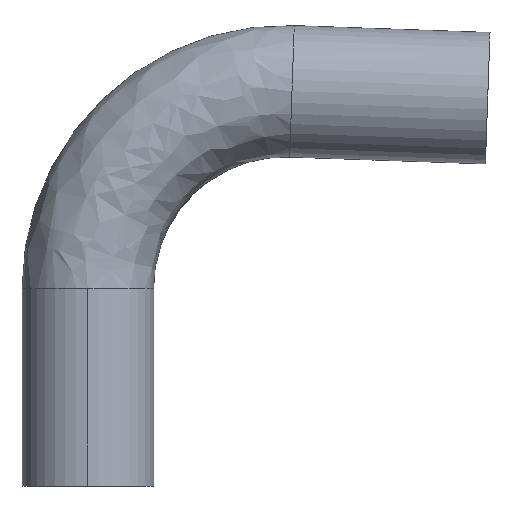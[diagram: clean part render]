
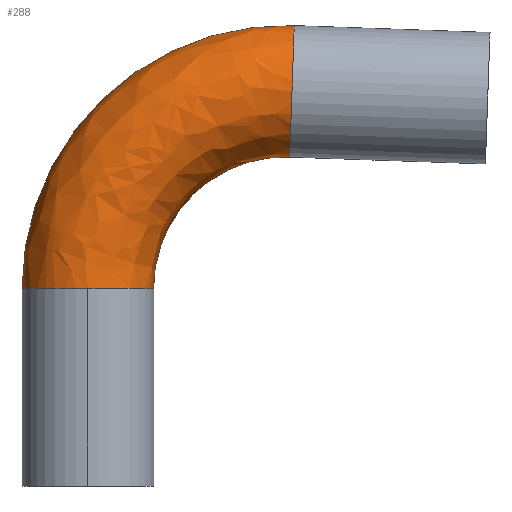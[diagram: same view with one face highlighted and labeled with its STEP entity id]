
A CAD part, top view. The second image highlights one B-rep face of the part: STEP entity #288.
In plain terms, the highlighted free-form (B-spline) face has degree [3, 3] with [4, 4] control points.
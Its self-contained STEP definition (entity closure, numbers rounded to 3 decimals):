
#8 = CARTESIAN_POINT ( 'NONE',  ( 39.873, 88.942, 0. ) ) ;
#14 =( BOUNDED_SURFACE ( )  B_SPLINE_SURFACE ( 3, 3, ( 
 ( #228, #285, #328, #8 ),
 ( #205, #408, #487, #479 ),
 ( #483, #348, #158, #442 ),
 ( #315, #133, #194, #187 ) ),
 .UNSPECIFIED., .F., .F., .F. ) 
 B_SPLINE_SURFACE_WITH_KNOTS ( ( 4, 4 ),
 ( 4, 4 ),
 ( 0., 1. ),
 ( 0., 1. ),
 .UNSPECIFIED. ) 
 GEOMETRIC_REPRESENTATION_ITEM ( )  RATIONAL_B_SPLINE_SURFACE ( (
 ( 1., 0.796, 0.796, 1.),
 ( 0.333, 0.265, 0.265, 0.333),
 ( 0.333, 0.265, 0.265, 0.333),
 ( 1., 0.796, 0.796, 1.) ) ) 
 REPRESENTATION_ITEM ( '' )  SURFACE ( )  );
#29 = ORIENTED_EDGE ( 'NONE', *, *, #409, .T. ) ;
#38 = CIRCLE ( 'NONE', #55, 12.7 ) ;
#55 = AXIS2_PLACEMENT_3D ( 'NONE', #401, #144, #363 ) ;
#57 = CARTESIAN_POINT ( 'NONE',  ( 39.43, 76.25, 0. ) ) ;
#61 = CIRCLE ( 'NONE', #217, 50.8 ) ;
#72 = CARTESIAN_POINT ( 'NONE',  ( 38.986, 63.557, 0. ) ) ;
#98 = CIRCLE ( 'NONE', #197, 25.4 ) ;
#117 = EDGE_CURVE ( 'NONE', #410, #494, #126, .T. ) ;
#118 = VERTEX_POINT ( 'NONE', #334 ) ;
#126 = CIRCLE ( 'NONE', #146, 12.7 ) ;
#133 = CARTESIAN_POINT ( 'NONE',  ( 12.7, 53.467, 0. ) ) ;
#144 = DIRECTION ( 'NONE',  ( 0., 1., 0. ) ) ;
#146 = AXIS2_PLACEMENT_3D ( 'NONE', #57, #343, #449 ) ;
#154 = CARTESIAN_POINT ( 'NONE',  ( 0., 38.173, 12.7 ) ) ;
#158 = CARTESIAN_POINT ( 'NONE',  ( 23.702, 64.091, 25.4 ) ) ;
#160 = ORIENTED_EDGE ( 'NONE', *, *, #202, .T. ) ;
#178 = FACE_OUTER_BOUND ( 'NONE', #243, .T. ) ;
#181 = CARTESIAN_POINT ( 'NONE',  ( 38.1, 38.173, 0. ) ) ;
#187 = CARTESIAN_POINT ( 'NONE',  ( 38.986, 63.557, 0. ) ) ;
#194 = CARTESIAN_POINT ( 'NONE',  ( 23.702, 64.091, 0. ) ) ;
#197 = AXIS2_PLACEMENT_3D ( 'NONE', #358, #467, #498 ) ;
#200 = DIRECTION ( 'NONE',  ( 0., 0., -1. ) ) ;
#202 = EDGE_CURVE ( 'NONE', #268, #118, #38, .T. ) ;
#205 = CARTESIAN_POINT ( 'NONE',  ( -12.7, 38.173, 25.4 ) ) ;
#209 = DIRECTION ( 'NONE',  ( -1., 0., 0. ) ) ;
#217 = AXIS2_PLACEMENT_3D ( 'NONE', #181, #200, #209 ) ;
#228 = CARTESIAN_POINT ( 'NONE',  ( -12.7, 38.173, 0. ) ) ;
#232 = VERTEX_POINT ( 'NONE', #385 ) ;
#243 = EDGE_LOOP ( 'NONE', ( #160, #269, #497, #421, #29 ) ) ;
#268 = VERTEX_POINT ( 'NONE', #154 ) ;
#269 = ORIENTED_EDGE ( 'NONE', *, *, #461, .T. ) ;
#285 = CARTESIAN_POINT ( 'NONE',  ( -12.7, 68.761, 0. ) ) ;
#288 = ADVANCED_FACE ( 'NONE', ( #178 ), #14, .T. ) ;
#311 = DIRECTION ( 'NONE',  ( -1., 0., 0. ) ) ;
#315 = CARTESIAN_POINT ( 'NONE',  ( 12.7, 38.173, 0. ) ) ;
#323 = EDGE_CURVE ( 'NONE', #232, #494, #61, .T. ) ;
#328 = CARTESIAN_POINT ( 'NONE',  ( 9.303, 90.009, 0. ) ) ;
#334 = CARTESIAN_POINT ( 'NONE',  ( 12.7, 38.173, 0. ) ) ;
#336 = CARTESIAN_POINT ( 'NONE',  ( 0., 38.173, 0. ) ) ;
#343 = DIRECTION ( 'NONE',  ( -0.999, 0.035, 0. ) ) ;
#348 = CARTESIAN_POINT ( 'NONE',  ( 12.7, 53.467, 25.4 ) ) ;
#349 = CARTESIAN_POINT ( 'NONE',  ( 39.873, 88.942, 0. ) ) ;
#358 = CARTESIAN_POINT ( 'NONE',  ( 38.1, 38.173, 0. ) ) ;
#363 = DIRECTION ( 'NONE',  ( -1., 0., 0. ) ) ;
#381 = AXIS2_PLACEMENT_3D ( 'NONE', #336, #503, #311 ) ;
#385 = CARTESIAN_POINT ( 'NONE',  ( -12.7, 38.173, 0. ) ) ;
#390 = CIRCLE ( 'NONE', #381, 12.7 ) ;
#401 = CARTESIAN_POINT ( 'NONE',  ( 0., 38.173, 0. ) ) ;
#408 = CARTESIAN_POINT ( 'NONE',  ( -12.7, 68.761, 25.4 ) ) ;
#409 = EDGE_CURVE ( 'NONE', #232, #268, #390, .T. ) ;
#410 = VERTEX_POINT ( 'NONE', #72 ) ;
#421 = ORIENTED_EDGE ( 'NONE', *, *, #323, .F. ) ;
#442 = CARTESIAN_POINT ( 'NONE',  ( 38.986, 63.557, 25.4 ) ) ;
#449 = DIRECTION ( 'NONE',  ( 0.035, 0.999, 0. ) ) ;
#461 = EDGE_CURVE ( 'NONE', #118, #410, #98, .T. ) ;
#467 = DIRECTION ( 'NONE',  ( 0., 0., -1. ) ) ;
#479 = CARTESIAN_POINT ( 'NONE',  ( 39.873, 88.942, 25.4 ) ) ;
#483 = CARTESIAN_POINT ( 'NONE',  ( 12.7, 38.173, 25.4 ) ) ;
#487 = CARTESIAN_POINT ( 'NONE',  ( 9.303, 90.009, 25.4 ) ) ;
#494 = VERTEX_POINT ( 'NONE', #349 ) ;
#497 = ORIENTED_EDGE ( 'NONE', *, *, #117, .T. ) ;
#498 = DIRECTION ( 'NONE',  ( -1., 0., 0. ) ) ;
#503 = DIRECTION ( 'NONE',  ( 0., 1., 0. ) ) ;
